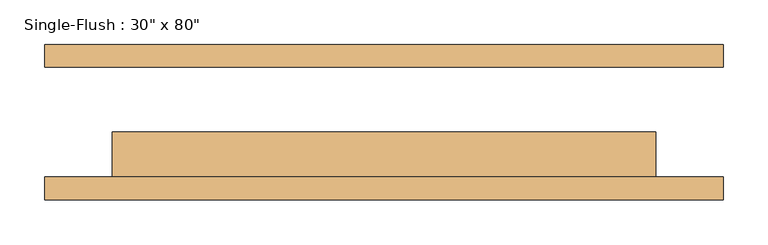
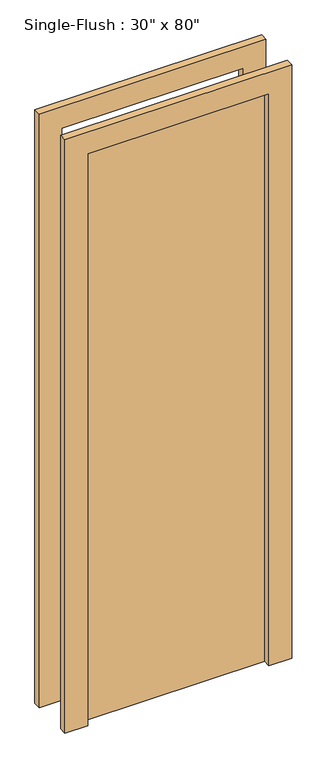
"""IFC4 building model written with IfcOpenShell, lengths in millimetres: door geometry."""

from ifc_helpers import new_model, si_unit, frame, origin, origin_with_axes, place, context, project, spatial, polyline, outline, extrude, source, transform, mapped, element, save


def door_77faabfc(model_context):
    return source(origin(), model_context, "Body", "SweptSolid", [
        extrude(outline(polyline([(2108.2, -381.0), (0.0, -381.0), (0.0, -304.8), (2032.0, -304.8), (2032.0, 304.8), (0.0, 304.8), (0.0, 381.0), (2108.2, 381.0), (2108.2, -381.0)])), frame((0.0, -87.3125, 0.0), z_axis=(0.0, 1.0, 0.0), x_axis=(0.0, 0.0, 1.0)), (0.0, 0.0, 1.0), 25.4),
        extrude(outline(polyline([(2108.2, 381.0), (2108.2, -381.0), (0.0, -381.0), (0.0, -304.8), (2032.0, -304.8), (2032.0, 304.8), (0.0, 304.8), (0.0, 381.0), (2108.2, 381.0)])), frame((0.0, 61.9125, 0.0), z_axis=(0.0, 1.0, 0.0), x_axis=(0.0, 0.0, 1.0)), (0.0, 0.0, 1.0), 25.4),
        extrude(outline(polyline([(304.8, -11.1125), (304.8, -61.9125), (-304.8, -61.9125), (-304.8, -11.1125), (304.8, -11.1125)])), origin_with_axes(), (0.0, 0.0, 1.0), 2032.0),
    ])


if __name__ == "__main__":
    model = new_model("IFC4")
    model_context = context("Model", 3, world=origin())
    ifc_project = project(units=[si_unit("LENGTHUNIT", "METRE", prefix="MILLI")], contexts=[model_context])
    site = spatial("IfcSite", under=ifc_project)
    building = spatial("IfcBuilding", under=site)
    placement = place(None, origin())
    door_shape = door_77faabfc(model_context)
    element("IfcDoor", 1, ObjectType="Single-Flush : 30\" x 80\"", at=placement, inside=building, context=model_context, shape_type="MappedRepresentation", body=[
        mapped(door_shape, transform((0.0, 0.0, 0.0), x_axis=(1.0, 0.0, 0.0), y_axis=(0.0, 1.0, 0.0), z_axis=(0.0, 0.0, 1.0))),
    ])
    save(model, "model.ifc")
